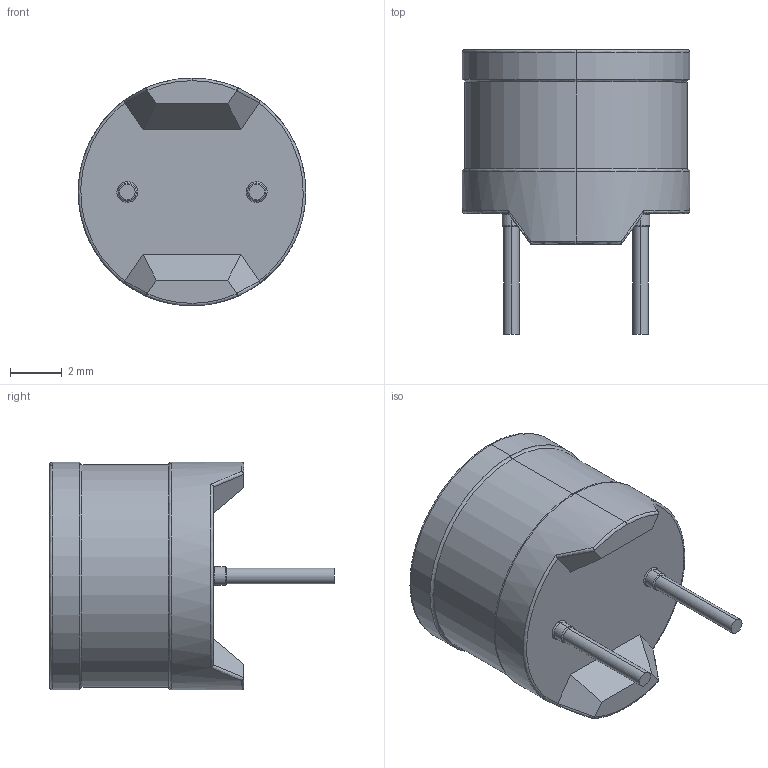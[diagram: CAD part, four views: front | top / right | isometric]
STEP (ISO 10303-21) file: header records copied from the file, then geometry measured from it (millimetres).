
FILE_DESCRIPTION (( 'STEP AP214' ), '1' );
FILE_NAME ('Coilcraft-RFB0807-DEFAULT.STEP', '2010-12-10T21:58:29', ( 'sysAdmin' ), ( 'SolidWorks' ), 'SwSTEP 2.0', 'SolidWorks 2011', '' );
FILE_SCHEMA (( 'AUTOMOTIVE_DESIGN' ));
Length unit declared in the file: millimetre
Products named in the file (1): Coilcraft-RFB0807-DEFAULT
Bounding box: 8.8 x 11 x 8.8 mm (x, y, z)
Volume: 390.6 mm3; surface area: 329.9 mm2
Topology: 1 solids, 1 shells, 73 faces, 175 edges, 109 vertices
Faces by surface type: plane 36, bspline 23, cylinder 14
Entity records: 3448 total; most frequent: CARTESIAN_POINT 1048, ORIENTED_EDGE 350, DIRECTION 289, EDGE_CURVE 175, VERTEX_POINT 109, AXIS2_PLACEMENT_3D 98, VECTOR 93, LINE 93
